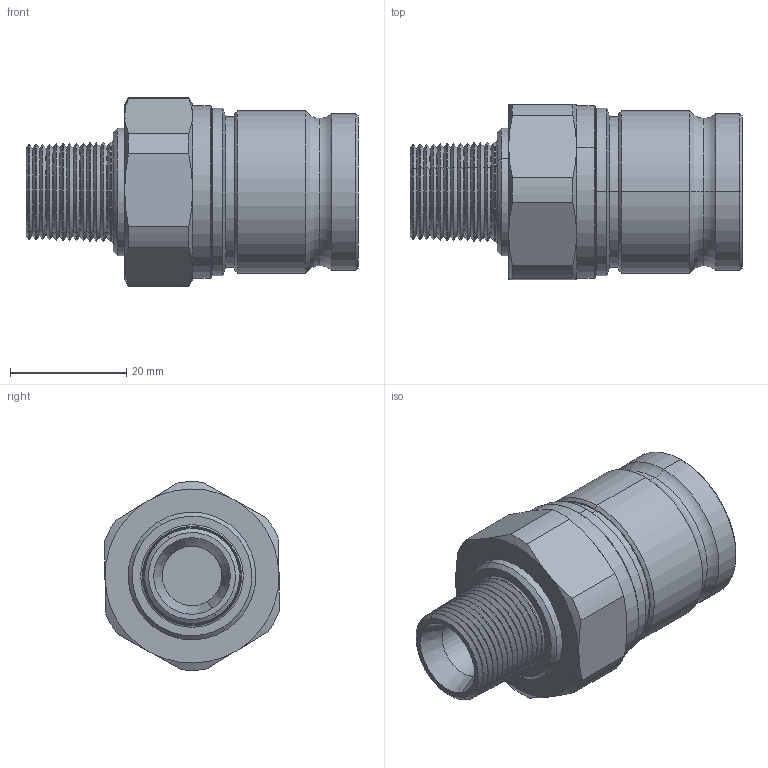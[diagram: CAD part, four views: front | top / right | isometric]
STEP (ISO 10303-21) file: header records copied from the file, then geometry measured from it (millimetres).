
FILE_DESCRIPTION (( 'STEP AP203' ), '1' );
FILE_NAME ('QD4_FTN38.STEP', '2025-05-26T06:26:48', ( 'aksong' ), ( '' ), 'SwSTEP 2.0', 'SolidWorks 2012', '' );
FILE_SCHEMA (( 'CONFIG_CONTROL_DESIGN' ));
Length unit declared in the file: millimetre
Products named in the file (3): QD4_FTN38; NPT 3_8 female 喻闌; female body
Assembly tree (2 placements, depth 2):
  QD4_FTN38
    female body
    NPT 3_8 female 喻闌
Bounding box: 57.2 x 30.24 x 32.49 mm (x, y, z)
Volume: 25629.6 mm3; surface area: 10420.2 mm2
Topology: 2 solids, 2 shells, 213 faces, 434 edges, 240 vertices
Faces by surface type: cone 140, cylinder 36, plane 25, torus 12
Entity records: 5909 total; most frequent: DIRECTION 1086, CARTESIAN_POINT 1036, ORIENTED_EDGE 868, AXIS2_PLACEMENT_3D 458, EDGE_CURVE 434, CIRCLE 240, VERTEX_POINT 240, EDGE_LOOP 230
